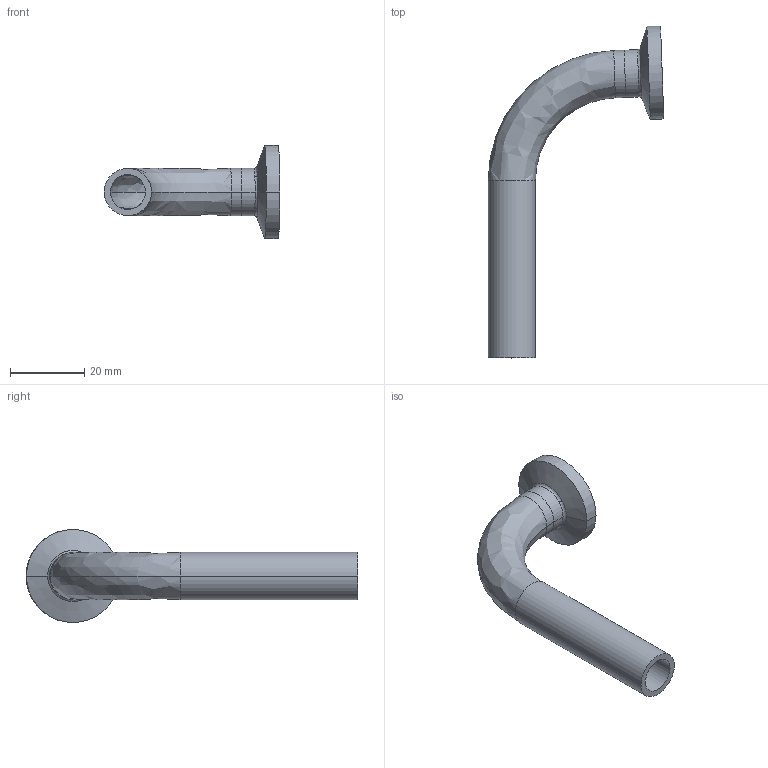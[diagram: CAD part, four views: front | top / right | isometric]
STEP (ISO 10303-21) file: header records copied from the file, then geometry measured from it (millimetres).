
FILE_DESCRIPTION (( 'STEP AP214' ), '1' );
FILE_NAME ('TE2C886L.5-...STEP', '2016-05-22T07:50:52', ( 'eran' ), ( '' ), 'SwSTEP 2.0', 'SolidWorks 2016', '' );
FILE_SCHEMA (( 'AUTOMOTIVE_DESIGN' ));
Length unit declared in the file: millimetre
Products named in the file (1): TE2C886L.5-..
Bounding box: 47.18 x 89.2 x 24.99 mm (x, y, z)
Volume: 7297 mm3; surface area: 8393.2 mm2
Topology: 2 solids, 2 shells, 37 faces, 86 edges, 54 vertices
Faces by surface type: cylinder 16, bspline 12, plane 5, cone 4
Entity records: 1265 total; most frequent: CARTESIAN_POINT 370, DIRECTION 196, ORIENTED_EDGE 172, AXIS2_PLACEMENT_3D 88, EDGE_CURVE 86, CIRCLE 62, VERTEX_POINT 54, EDGE_LOOP 42
